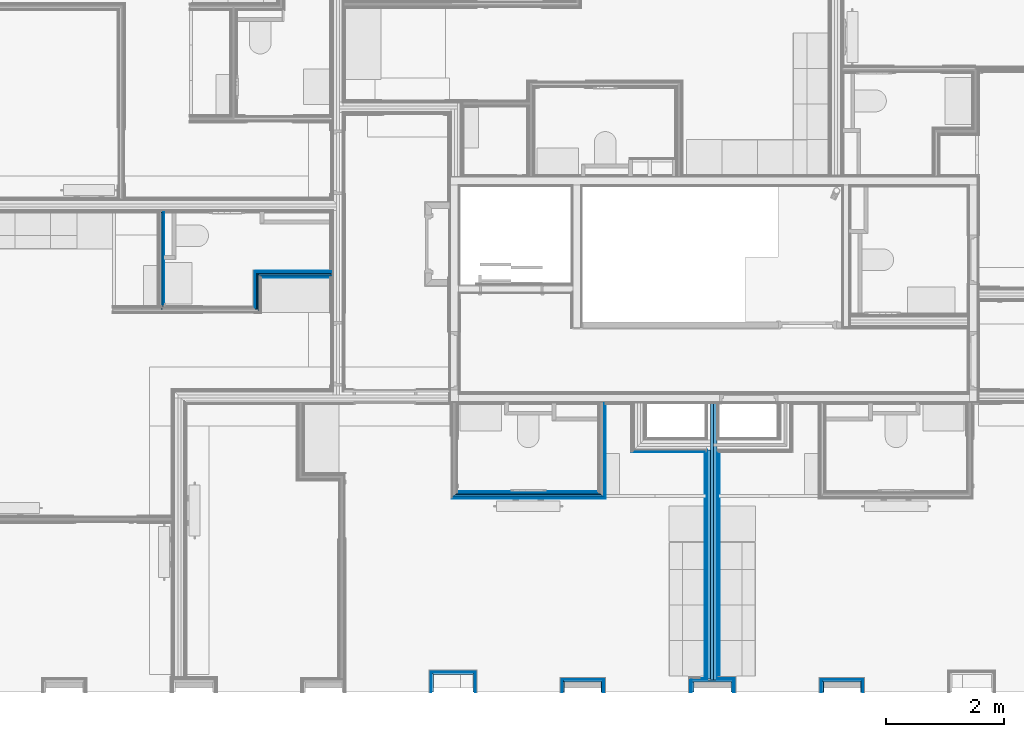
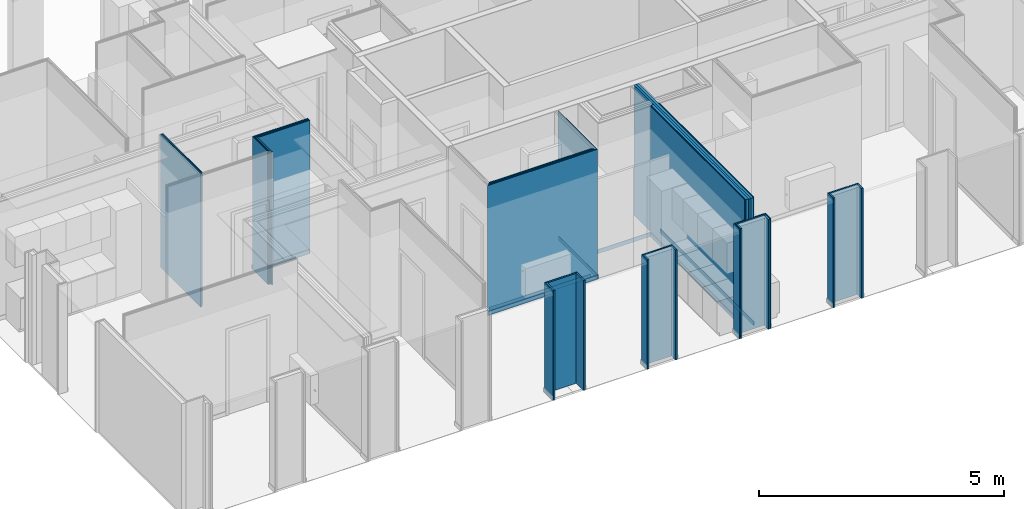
# One storey, part 11 of 64: 62 building element parts, 19 elements without a shape of their own.
"""IFC2X3 building model written with IfcOpenShell, lengths in metres."""

from ifc_helpers import new_model, entity, si_unit, converted_unit, derived_unit, money_unit, direction, frame, frame_2d, origin_with_axes, place, context, subcontext, project, spatial, polyline, rectangle, outline, extrude, material, type_object, element, aggregate, save


model = new_model("IFC2X3")

# Units and contexts
model_context = context("Model", 3, precision=1e-05, world=origin_with_axes(), true_north=direction((0.0, 1.0)))
body_context = subcontext(model_context, "Body", "Model", "MODEL_VIEW", scale=1.0)
ifc_project = project(units=[si_unit("LENGTHUNIT", "METRE"), si_unit("AREAUNIT", "SQUARE_METRE"), si_unit("VOLUMEUNIT", "CUBIC_METRE"), si_unit("ABSORBEDDOSEUNIT", "GRAY"), si_unit("AMOUNTOFSUBSTANCEUNIT", "MOLE"), si_unit("DOSEEQUIVALENTUNIT", "SIEVERT"), si_unit("ELECTRICCAPACITANCEUNIT", "FARAD"), si_unit("ELECTRICCHARGEUNIT", "COULOMB"), si_unit("ELECTRICCONDUCTANCEUNIT", "SIEMENS"), si_unit("ELECTRICCURRENTUNIT", "AMPERE"), si_unit("ELECTRICRESISTANCEUNIT", "OHM"), si_unit("ELECTRICVOLTAGEUNIT", "VOLT"), si_unit("ENERGYUNIT", "JOULE"), si_unit("FORCEUNIT", "NEWTON"), si_unit("FREQUENCYUNIT", "HERTZ"), si_unit("ILLUMINANCEUNIT", "LUX"), si_unit("INDUCTANCEUNIT", "HENRY"), si_unit("LUMINOUSFLUXUNIT", "LUMEN"), si_unit("LUMINOUSINTENSITYUNIT", "CANDELA"), si_unit("MAGNETICFLUXDENSITYUNIT", "TESLA"), si_unit("MAGNETICFLUXUNIT", "WEBER"), si_unit("MASSUNIT", "GRAM"), converted_unit("PLANEANGLEUNIT", "degree", entity("IfcReal", 0.0174532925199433), si_unit("PLANEANGLEUNIT", "RADIAN"), dimensions=[0, 0, 0, 0, 0, 0, 0]), si_unit("POWERUNIT", "WATT"), si_unit("PRESSUREUNIT", "PASCAL"), si_unit("RADIOACTIVITYUNIT", "BECQUEREL"), si_unit("SOLIDANGLEUNIT", "STERADIAN"), si_unit("THERMODYNAMICTEMPERATUREUNIT", "KELVIN"), si_unit("TIMEUNIT", "SECOND"), derived_unit("ACCELERATIONUNIT", [(si_unit("LENGTHUNIT", "METRE"), 1), (si_unit("TIMEUNIT", "SECOND"), -2)]), derived_unit("ANGULARVELOCITYUNIT", [(converted_unit("PLANEANGLEUNIT", "degree", entity("IfcReal", 0.0174532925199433), si_unit("PLANEANGLEUNIT", "RADIAN"), dimensions=[0, 0, 0, 0, 0, 0, 0]), 1), (si_unit("TIMEUNIT", "SECOND"), -1)]), derived_unit("CURVATUREUNIT", [(converted_unit("PLANEANGLEUNIT", "degree", entity("IfcReal", 0.0174532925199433), si_unit("PLANEANGLEUNIT", "RADIAN"), dimensions=[0, 0, 0, 0, 0, 0, 0]), 1), (si_unit("LENGTHUNIT", "METRE"), -1)]), derived_unit("DYNAMICVISCOSITYUNIT", [(si_unit("PRESSUREUNIT", "PASCAL"), 1), (si_unit("TIMEUNIT", "SECOND"), 1)]), derived_unit("HEATFLUXDENSITYUNIT", [(si_unit("POWERUNIT", "WATT"), 1), (si_unit("LENGTHUNIT", "METRE"), -2)]), derived_unit("HEATINGVALUEUNIT", [(si_unit("ENERGYUNIT", "JOULE"), 1), (si_unit("MASSUNIT", "GRAM"), -1)]), derived_unit("INTEGERCOUNTRATEUNIT", [(si_unit("TIMEUNIT", "SECOND"), -1)]), derived_unit("IONCONCENTRATIONUNIT", [(si_unit("MASSUNIT", "GRAM"), 1), (si_unit("VOLUMEUNIT", "CUBIC_METRE"), -1)]), derived_unit("ISOTHERMALMOISTURECAPACITYUNIT", [(si_unit("VOLUMEUNIT", "CUBIC_METRE"), 1), (si_unit("MASSUNIT", "GRAM"), -1)]), derived_unit("KINEMATICVISCOSITYUNIT", [(si_unit("AREAUNIT", "SQUARE_METRE"), 1), (si_unit("TIMEUNIT", "SECOND"), -1)]), derived_unit("LINEARFORCEUNIT", [(si_unit("FORCEUNIT", "NEWTON"), 1), (si_unit("LENGTHUNIT", "METRE"), -1)]), derived_unit("LINEARMOMENTUNIT", [(si_unit("FORCEUNIT", "NEWTON"), 1), (si_unit("LENGTHUNIT", "METRE"), -1)]), derived_unit("LINEARSTIFFNESSUNIT", [(si_unit("FORCEUNIT", "NEWTON"), 1), (si_unit("LENGTHUNIT", "METRE"), -1)]), derived_unit("LINEARVELOCITYUNIT", [(si_unit("LENGTHUNIT", "METRE"), 1), (si_unit("TIMEUNIT", "SECOND"), -1)]), derived_unit("LUMINOUSINTENSITYDISTRIBUTIONUNIT", [(si_unit("LUMINOUSINTENSITYUNIT", "CANDELA"), 1), (si_unit("LUMINOUSFLUXUNIT", "LUMEN"), -1)]), derived_unit("MASSDENSITYUNIT", [(si_unit("MASSUNIT", "GRAM"), 1), (si_unit("VOLUMEUNIT", "CUBIC_METRE"), -1)]), derived_unit("MASSFLOWRATEUNIT", [(si_unit("MASSUNIT", "GRAM"), 1), (si_unit("TIMEUNIT", "SECOND"), -1)]), derived_unit("MASSPERLENGTHUNIT", [(si_unit("MASSUNIT", "GRAM"), 1), (si_unit("LENGTHUNIT", "METRE"), -1)]), derived_unit("MODULUSOFELASTICITYUNIT", [(si_unit("FORCEUNIT", "NEWTON"), 1), (si_unit("AREAUNIT", "SQUARE_METRE"), -1)]), derived_unit("MODULUSOFLINEARSUBGRADEREACTIONUNIT", [(si_unit("FORCEUNIT", "NEWTON"), 1), (si_unit("LENGTHUNIT", "METRE"), -2)]), derived_unit("MODULUSOFROTATIONALSUBGRADEREACTIONUNIT", [(si_unit("FORCEUNIT", "NEWTON"), 1), (si_unit("LENGTHUNIT", "METRE"), 1)]), derived_unit("MODULUSOFSUBGRADEREACTIONUNIT", [(si_unit("FORCEUNIT", "NEWTON"), 1), (si_unit("VOLUMEUNIT", "CUBIC_METRE"), -1)]), derived_unit("MOISTUREDIFFUSIVITYUNIT", [(si_unit("VOLUMEUNIT", "CUBIC_METRE"), 1), (si_unit("TIMEUNIT", "SECOND"), -1)]), derived_unit("MOLECULARWEIGHTUNIT", [(si_unit("MASSUNIT", "GRAM"), 1), (si_unit("AMOUNTOFSUBSTANCEUNIT", "MOLE"), -1)]), derived_unit("PLANARFORCEUNIT", [(si_unit("FORCEUNIT", "NEWTON"), 1), (si_unit("LENGTHUNIT", "METRE"), -2)]), derived_unit("ROTATIONALFREQUENCYUNIT", [(si_unit("TIMEUNIT", "SECOND"), -1)]), derived_unit("ROTATIONALMASSUNIT", [(si_unit("MASSUNIT", "GRAM"), 1), (si_unit("LENGTHUNIT", "METRE"), 2)]), derived_unit("ROTATIONALSTIFFNESSUNIT", [(si_unit("FORCEUNIT", "NEWTON"), 1), (si_unit("LENGTHUNIT", "METRE"), 1), (converted_unit("PLANEANGLEUNIT", "degree", entity("IfcReal", 0.0174532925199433), si_unit("PLANEANGLEUNIT", "RADIAN"), dimensions=[0, 0, 0, 0, 0, 0, 0]), -1)]), derived_unit("SECTIONAREAINTEGRALUNIT", [(si_unit("LENGTHUNIT", "METRE"), 5)]), derived_unit("SECTIONMODULUSUNIT", [(si_unit("LENGTHUNIT", "METRE"), 3)]), derived_unit("SHEARMODULUSUNIT", [(si_unit("FORCEUNIT", "NEWTON"), 1), (si_unit("AREAUNIT", "SQUARE_METRE"), -1)]), derived_unit("SOUNDPOWERUNIT", [(si_unit("ENERGYUNIT", "JOULE"), 1), (si_unit("TIMEUNIT", "SECOND"), -1)]), derived_unit("SPECIFICHEATCAPACITYUNIT", [(si_unit("FORCEUNIT", "NEWTON"), 1), (si_unit("MASSUNIT", "GRAM"), -1), (si_unit("THERMODYNAMICTEMPERATUREUNIT", "KELVIN"), -1)]), derived_unit("TEMPERATUREGRADIENTUNIT", [(si_unit("THERMODYNAMICTEMPERATUREUNIT", "KELVIN"), 1), (si_unit("LENGTHUNIT", "METRE"), -1)]), derived_unit("THERMALADMITTANCEUNIT", [(si_unit("POWERUNIT", "WATT"), 1), (si_unit("AREAUNIT", "SQUARE_METRE"), -1), (si_unit("THERMODYNAMICTEMPERATUREUNIT", "KELVIN"), -1)]), derived_unit("THERMALCONDUCTANCEUNIT", [(si_unit("POWERUNIT", "WATT"), 1), (si_unit("LENGTHUNIT", "METRE"), -1), (si_unit("THERMODYNAMICTEMPERATUREUNIT", "KELVIN"), -1)]), derived_unit("THERMALEXPANSIONCOEFFICIENTUNIT", [(si_unit("THERMODYNAMICTEMPERATUREUNIT", "KELVIN"), -1)]), derived_unit("THERMALRESISTANCEUNIT", [(si_unit("AREAUNIT", "SQUARE_METRE"), 1), (si_unit("POWERUNIT", "WATT"), -1)]), derived_unit("THERMALTRANSMITTANCEUNIT", [(si_unit("POWERUNIT", "WATT"), 1), (si_unit("AREAUNIT", "SQUARE_METRE"), -1), (si_unit("THERMODYNAMICTEMPERATUREUNIT", "KELVIN"), -1)]), derived_unit("TORQUEUNIT", [(si_unit("FORCEUNIT", "NEWTON"), 1), (si_unit("LENGTHUNIT", "METRE"), 1)]), derived_unit("VAPORPERMEABILITYUNIT", [(si_unit("MASSUNIT", "GRAM"), 1), (si_unit("TIMEUNIT", "SECOND"), -1)]), derived_unit("VOLUMETRICFLOWRATEUNIT", [(si_unit("VOLUMEUNIT", "CUBIC_METRE"), 1), (si_unit("TIMEUNIT", "SECOND"), -1)]), derived_unit("WARPINGCONSTANTUNIT", [(si_unit("LENGTHUNIT", "METRE"), 6)]), derived_unit("WARPINGMOMENTUNIT", [(si_unit("FORCEUNIT", "NEWTON"), 1), (si_unit("LENGTHUNIT", "METRE"), 2)]), money_unit("GBP")], contexts=[model_context])

# Site, building, storey
site_placement = place(None, origin_with_axes())
site = spatial("IfcSite", under=ifc_project, at=site_placement, Name="Site", CompositionType="ELEMENT")
building_placement = place(site_placement, origin_with_axes())
building = spatial("IfcBuilding", under=site, at=building_placement, Name="Building01", CompositionType="ELEMENT")
storey_placement = place(building_placement, frame((0.0, 0.0, 8.64), z_axis=(0.0, 0.0, 1.0), x_axis=(1.0, 0.0, 0.0)))
storey = spatial("IfcBuildingStorey", under=building, at=storey_placement, Name="2F", CompositionType="ELEMENT", Elevation=8.64)

# Wall, building element parts
wall_type_1 = type_object("IfcWallType", Name="SHE_A-Walls_Type06d_ExternalWallInsulation_48mm", PredefinedType="NOTDEFINED")
wall_1_placement = place(storey_placement, frame((8.79, 0.1, 0.0), z_axis=(0.0, 0.0, 1.0), x_axis=(0.0, 1.0, 0.0)))
wall_1 = element("IfcWall", 1, at=wall_1_placement, inside=storey, type_object=wall_type_1, Name="6D", ObjectType="SHE_A-Walls_Type06d_ExternalWallInsulation_48mm")
ifc_material_1 = material(Name="A_BSUK_Insulation")
placement_1 = place(wall_1_placement, origin_with_axes())
building_element_part_1 = element("IfcBuildingElementPart", 2, at=placement_1, material=ifc_material_1, Name="1", context=body_context, shape_type="SweptSolid", body=[
    extrude(outline(polyline([(0.336, 0.036), (0.0, 0.036), (0.0, 0.0), (0.3, 0.0), (0.336, 0.036)])), origin_with_axes(), (0.0, 0.0, 1.0), 2.74),
])
ifc_material_2 = material(Name="A_BSUK_WallInternal_Finishes_Plasterboard")
building_element_part_2 = element("IfcBuildingElementPart", 3, at=placement_1, material=ifc_material_2, Name="2", context=body_context, shape_type="SweptSolid", body=[
    extrude(outline(polyline([(0.348, 0.048), (0.0, 0.048), (0.0, 0.035), (0.335, 0.035), (0.348, 0.048)])), origin_with_axes(), (0.0, 0.0, 1.0), 2.74),
])
aggregate(wall_1, [building_element_part_1, building_element_part_2])

wall_2_placement = place(storey_placement, frame((8.79, 0.4, 0.0), z_axis=(0.0, 0.0, 1.0), x_axis=(1.0, 0.0, 0.0)))
wall_2 = element("IfcWall", 4, at=wall_2_placement, inside=storey, type_object=wall_type_1, Name="6D", ObjectType="SHE_A-Walls_Type06d_ExternalWallInsulation_48mm")
placement_2 = place(wall_2_placement, origin_with_axes())
building_element_part_3 = element("IfcBuildingElementPart", 5, at=placement_2, material=ifc_material_1, Name="1", context=body_context, shape_type="SweptSolid", body=[
    extrude(outline(polyline([(0.706, 0.036), (-0.036, 0.036), (0.0, 0.0), (0.67, 0.0), (0.706, 0.036)])), origin_with_axes(), (0.0, 0.0, 1.0), 2.74),
])
building_element_part_4 = element("IfcBuildingElementPart", 6, at=placement_2, material=ifc_material_2, Name="2", context=body_context, shape_type="SweptSolid", body=[
    extrude(outline(polyline([(0.718, 0.048), (-0.048, 0.048), (-0.035, 0.035), (0.705, 0.035), (0.718, 0.048)])), origin_with_axes(), (0.0, 0.0, 1.0), 2.74),
])
aggregate(wall_2, [building_element_part_3, building_element_part_4])

wall_3_placement = place(storey_placement, frame((9.46, 0.4, 0.0), z_axis=(0.0, 0.0, 1.0), x_axis=(0.0, -1.0, 0.0)))
wall_3 = element("IfcWall", 7, at=wall_3_placement, inside=storey, type_object=wall_type_1, Name="6D", ObjectType="SHE_A-Walls_Type06d_ExternalWallInsulation_48mm")
placement_3 = place(wall_3_placement, origin_with_axes())
building_element_part_5 = element("IfcBuildingElementPart", 8, at=placement_3, material=ifc_material_1, Name="1", context=body_context, shape_type="SweptSolid", body=[
    extrude(outline(polyline([(-0.036, 0.036), (0.0, 0.0), (0.3, 0.0), (0.3, 0.036), (-0.036, 0.036)])), origin_with_axes(), (0.0, 0.0, 1.0), 2.74),
])
building_element_part_6 = element("IfcBuildingElementPart", 9, at=placement_3, material=ifc_material_2, Name="2", context=body_context, shape_type="SweptSolid", body=[
    extrude(outline(polyline([(-0.048, 0.048), (-0.035, 0.035), (0.3, 0.035), (0.3, 0.048), (-0.048, 0.048)])), origin_with_axes(), (0.0, 0.0, 1.0), 2.74),
])
aggregate(wall_3, [building_element_part_5, building_element_part_6])

wall_4_placement = place(storey_placement, frame((11.003, 0.1, 0.0), z_axis=(0.0, 0.0, 1.0), x_axis=(0.0, 1.0, 0.0)))
wall_4 = element("IfcWall", 10, at=wall_4_placement, inside=storey, type_object=wall_type_1, Name="6D", ObjectType="SHE_A-Walls_Type06d_ExternalWallInsulation_48mm")
placement_4 = place(wall_4_placement, origin_with_axes())
building_element_part_7 = element("IfcBuildingElementPart", 11, at=placement_4, material=ifc_material_1, Name="1", context=body_context, shape_type="SweptSolid", body=[
    extrude(outline(polyline([(0.206, 0.036), (0.0, 0.036), (0.0, 0.0), (0.17, 0.0), (0.206, 0.036)])), origin_with_axes(), (0.0, 0.0, 1.0), 2.74),
])
building_element_part_8 = element("IfcBuildingElementPart", 12, at=placement_4, material=ifc_material_2, Name="2", context=body_context, shape_type="SweptSolid", body=[
    extrude(outline(polyline([(0.218, 0.048), (0.0, 0.048), (0.0, 0.035), (0.205, 0.035), (0.218, 0.048)])), origin_with_axes(), (0.0, 0.0, 1.0), 2.74),
])
aggregate(wall_4, [building_element_part_7, building_element_part_8])

wall_5_placement = place(storey_placement, frame((11.003, 0.27, 0.0), z_axis=(0.0, 0.0, 1.0), x_axis=(1.0, 0.0, 0.0)))
wall_5 = element("IfcWall", 13, at=wall_5_placement, inside=storey, type_object=wall_type_1, Name="6D", ObjectType="SHE_A-Walls_Type06d_ExternalWallInsulation_48mm")
placement_5 = place(wall_5_placement, origin_with_axes())
building_element_part_9 = element("IfcBuildingElementPart", 14, at=placement_5, material=ifc_material_1, Name="1", context=body_context, shape_type="SweptSolid", body=[
    extrude(outline(polyline([(0.66, 0.036), (-0.036, 0.036), (0.0, 0.0), (0.624, 0.0), (0.66, 0.036)])), origin_with_axes(), (0.0, 0.0, 1.0), 2.74),
])
building_element_part_10 = element("IfcBuildingElementPart", 15, at=placement_5, material=ifc_material_2, Name="2", context=body_context, shape_type="SweptSolid", body=[
    extrude(outline(polyline([(0.672, 0.048), (-0.048, 0.048), (-0.035, 0.035), (0.659, 0.035), (0.672, 0.048)])), origin_with_axes(), (0.0, 0.0, 1.0), 2.74),
])
aggregate(wall_5, [building_element_part_9, building_element_part_10])

wall_6_placement = place(storey_placement, frame((11.627, 0.27, 0.0), z_axis=(0.0, 0.0, 1.0), x_axis=(0.0, -1.0, 0.0)))
wall_6 = element("IfcWall", 16, at=wall_6_placement, inside=storey, type_object=wall_type_1, Name="6D", ObjectType="SHE_A-Walls_Type06d_ExternalWallInsulation_48mm")
placement_6 = place(wall_6_placement, origin_with_axes())
building_element_part_11 = element("IfcBuildingElementPart", 17, at=placement_6, material=ifc_material_1, Name="1", context=body_context, shape_type="SweptSolid", body=[
    extrude(outline(polyline([(-0.036, 0.036), (0.0, 0.0), (0.17, 0.0), (0.17, 0.036), (-0.036, 0.036)])), origin_with_axes(), (0.0, 0.0, 1.0), 2.74),
])
building_element_part_12 = element("IfcBuildingElementPart", 18, at=placement_6, material=ifc_material_2, Name="2", context=body_context, shape_type="SweptSolid", body=[
    extrude(outline(polyline([(-0.048, 0.048), (-0.035, 0.035), (0.17, 0.035), (0.17, 0.048), (-0.048, 0.048)])), origin_with_axes(), (0.0, 0.0, 1.0), 2.74),
])
aggregate(wall_6, [building_element_part_11, building_element_part_12])

wall_7_placement = place(storey_placement, frame((15.383, 0.1, 0.0), z_axis=(0.0, 0.0, 1.0), x_axis=(0.0, 1.0, 0.0)))
wall_7 = element("IfcWall", 19, at=wall_7_placement, inside=storey, type_object=wall_type_1, Name="6D", ObjectType="SHE_A-Walls_Type06d_ExternalWallInsulation_48mm")
placement_7 = place(wall_7_placement, origin_with_axes())
building_element_part_13 = element("IfcBuildingElementPart", 20, at=placement_7, material=ifc_material_1, Name="1", context=body_context, shape_type="SweptSolid", body=[
    extrude(outline(polyline([(0.206, 0.036), (0.0, 0.036), (0.0, 0.0), (0.17, 0.0), (0.206, 0.036)])), origin_with_axes(), (0.0, 0.0, 1.0), 2.74),
])
building_element_part_14 = element("IfcBuildingElementPart", 21, at=placement_7, material=ifc_material_2, Name="2", context=body_context, shape_type="SweptSolid", body=[
    extrude(outline(polyline([(0.218, 0.048), (0.0, 0.048), (0.0, 0.035), (0.205, 0.035), (0.218, 0.048)])), origin_with_axes(), (0.0, 0.0, 1.0), 2.74),
])
aggregate(wall_7, [building_element_part_13, building_element_part_14])

wall_8_placement = place(storey_placement, frame((15.383, 0.27, 0.0), z_axis=(0.0, 0.0, 1.0), x_axis=(1.0, 0.0, 0.0)))
wall_8 = element("IfcWall", 22, at=wall_8_placement, inside=storey, type_object=wall_type_1, Name="6D", ObjectType="SHE_A-Walls_Type06d_ExternalWallInsulation_48mm")
placement_8 = place(wall_8_placement, origin_with_axes())
building_element_part_15 = element("IfcBuildingElementPart", 23, at=placement_8, material=ifc_material_1, Name="1", context=body_context, shape_type="SweptSolid", body=[
    extrude(outline(polyline([(0.66, 0.036), (-0.036, 0.036), (0.0, 0.0), (0.624, 0.0), (0.66, 0.036)])), origin_with_axes(), (0.0, 0.0, 1.0), 2.74),
])
building_element_part_16 = element("IfcBuildingElementPart", 24, at=placement_8, material=ifc_material_2, Name="2", context=body_context, shape_type="SweptSolid", body=[
    extrude(outline(polyline([(0.672, 0.048), (-0.048, 0.048), (-0.035, 0.035), (0.659, 0.035), (0.672, 0.048)])), origin_with_axes(), (0.0, 0.0, 1.0), 2.74),
])
aggregate(wall_8, [building_element_part_15, building_element_part_16])

wall_9_placement = place(storey_placement, frame((16.007, 0.27, 0.0), z_axis=(0.0, 0.0, 1.0), x_axis=(0.0, -1.0, 0.0)))
wall_9 = element("IfcWall", 25, at=wall_9_placement, inside=storey, type_object=wall_type_1, Name="6D", ObjectType="SHE_A-Walls_Type06d_ExternalWallInsulation_48mm")
placement_9 = place(wall_9_placement, origin_with_axes())
building_element_part_17 = element("IfcBuildingElementPart", 26, at=placement_9, material=ifc_material_1, Name="1", context=body_context, shape_type="SweptSolid", body=[
    extrude(outline(polyline([(-0.036, 0.036), (0.0, 0.0), (0.17, 0.0), (0.17, 0.036), (-0.036, 0.036)])), origin_with_axes(), (0.0, 0.0, 1.0), 2.74),
])
building_element_part_18 = element("IfcBuildingElementPart", 27, at=placement_9, material=ifc_material_2, Name="2", context=body_context, shape_type="SweptSolid", body=[
    extrude(outline(polyline([(-0.048, 0.048), (-0.035, 0.035), (0.17, 0.035), (0.17, 0.048), (-0.048, 0.048)])), origin_with_axes(), (0.0, 0.0, 1.0), 2.74),
])
aggregate(wall_9, [building_element_part_17, building_element_part_18])

# Wall, building element part
wall_type_2 = type_object("IfcWallType", Name="SHE_A-Walls_Type01c_Partywall_225mm_twin_tall", PredefinedType="NOTDEFINED")
wall_10_placement = place(storey_placement, frame((12.288, 4.302428, 0.0), z_axis=(0.0, 0.0, 1.0), x_axis=(1.0, 0.0, 0.0)))
wall_10 = element("IfcWall", 28, at=wall_10_placement, inside=storey, type_object=wall_type_2, Name="1C", ObjectType="SHE_A-Walls_Type01c_Partywall_225mm_twin_tall")
ifc_material_3 = material(Name="A_BSUK_Walls_Timber")
building_element_part_19_placement = place(wall_10_placement, origin_with_axes())
building_element_part_19 = element("IfcBuildingElementPart", 29, at=building_element_part_19_placement, material=ifc_material_3, Name="1", context=body_context, shape_type="SweptSolid", body=[
    extrude(rectangle(XDim=1.2375, YDim=0.015, at=frame_2d((0.46575, -0.1455), x_axis=(-1.0, 0.0))), frame((0.0, 0.0, 0.015), z_axis=(0.0, 0.0, 1.0), x_axis=(1.0, 0.0, 0.0)), (0.0, 0.0, 1.0), 0.1),
])
aggregate(wall_10, [building_element_part_19])

# Wall, building element parts
wall_11_placement = place(storey_placement, frame((13.5005, 4.995, 0.0), z_axis=(0.0, 0.0, 1.0), x_axis=(0.0, -1.0, 0.0)))
wall_11 = element("IfcWall", 30, at=wall_11_placement, inside=storey, type_object=wall_type_2, Name="1C", ObjectType="SHE_A-Walls_Type01c_Partywall_225mm_twin_tall")
placement_10 = place(wall_11_placement, origin_with_axes())
building_element_part_20 = element("IfcBuildingElementPart", 31, at=placement_10, material=ifc_material_3, Name="1", context=body_context, shape_type="SweptSolid", body=[
    extrude(rectangle(XDim=3.831428, YDim=0.015, at=frame_2d((2.746286, -0.1205), x_axis=(-1.0, 0.0))), frame((0.0, 0.0, 0.015), z_axis=(0.0, 0.0, 1.0), x_axis=(1.0, 0.0, 0.0)), (0.0, 0.0, 1.0), 0.1),
])
building_element_part_21 = element("IfcBuildingElementPart", 32, at=placement_10, material=ifc_material_2, Name="3", context=body_context, shape_type="SweptSolid", body=[
    extrude(rectangle(XDim=3.846428, YDim=0.015, at=frame_2d((2.738786, -0.1055), x_axis=(-1.0, 0.0))), origin_with_axes(), (0.0, 0.0, 1.0), 3.24),
])
building_element_part_22 = element("IfcBuildingElementPart", 33, at=placement_10, material=ifc_material_2, Name="5", context=body_context, shape_type="SweptSolid", body=[
    extrude(rectangle(XDim=3.876428, YDim=0.015, at=frame_2d((2.738786, -0.0905), x_axis=(-1.0, 0.0))), origin_with_axes(), (0.0, 0.0, 1.0), 3.24),
])
ifc_material_4 = material(Name="Air Cavity")
building_element_part_23 = element("IfcBuildingElementPart", 34, at=placement_10, material=ifc_material_4, Name="6", context=body_context, shape_type="SweptSolid", body=[
    extrude(rectangle(XDim=3.876428, YDim=0.058, at=frame_2d((2.738786, -0.054), x_axis=(-1.0, 0.0))), origin_with_axes(), (0.0, 0.0, 1.0), 3.24),
])
building_element_part_24 = element("IfcBuildingElementPart", 35, at=placement_10, material=ifc_material_1, Name="7", context=body_context, shape_type="SweptSolid", body=[
    extrude(rectangle(XDim=4.689, YDim=0.05, at=frame_2d((2.3445, 0.0), x_axis=(-1.0, 0.0))), origin_with_axes(), (0.0, 0.0, 1.0), 3.24),
])
building_element_part_25 = element("IfcBuildingElementPart", 36, at=placement_10, material=ifc_material_4, Name="8", context=body_context, shape_type="SweptSolid", body=[
    extrude(rectangle(XDim=4.689, YDim=0.057, at=frame_2d((2.3445, 0.0535), x_axis=(-1.0, 0.0))), origin_with_axes(), (0.0, 0.0, 1.0), 3.24),
])
building_element_part_26 = element("IfcBuildingElementPart", 37, at=placement_10, material=ifc_material_2, Name="10", context=body_context, shape_type="SweptSolid", body=[
    extrude(rectangle(XDim=3.876428, YDim=0.015, at=frame_2d((2.738786, 0.0895), x_axis=(-1.0, 0.0))), origin_with_axes(), (0.0, 0.0, 1.0), 3.24),
])
building_element_part_27 = element("IfcBuildingElementPart", 38, at=placement_10, material=ifc_material_2, Name="12", context=body_context, shape_type="SweptSolid", body=[
    extrude(rectangle(XDim=3.846428, YDim=0.015, at=frame_2d((2.738786, 0.1045), x_axis=(-1.0, 0.0))), origin_with_axes(), (0.0, 0.0, 1.0), 3.24),
])
building_element_part_28 = element("IfcBuildingElementPart", 39, at=placement_10, material=ifc_material_3, Name="13", context=body_context, shape_type="SweptSolid", body=[
    extrude(rectangle(XDim=3.816428, YDim=0.015, at=frame_2d((2.738786, 0.1195), x_axis=(-1.0, 0.0))), frame((0.0, 0.0, 0.015), z_axis=(0.0, 0.0, 1.0), x_axis=(1.0, 0.0, 0.0)), (0.0, 0.0, 1.0), 0.1),
])
aggregate(wall_11, [building_element_part_20, building_element_part_21, building_element_part_22, building_element_part_23, building_element_part_24, building_element_part_25, building_element_part_26, building_element_part_27, building_element_part_28])

wall_type_3 = type_object("IfcWallType", Name="SHE_A-Walls_Type05a_Partition_95mm_tall", PredefinedType="NOTDEFINED")
wall_12_placement = place(storey_placement, frame((4.20573, 6.571475, 0.0), z_axis=(0.0, 0.0, 1.0), x_axis=(0.0, 1.0, 0.0)))
wall_12 = element("IfcWall", 40, at=wall_12_placement, inside=storey, type_object=wall_type_3, Name="5A", ObjectType="SHE_A-Walls_Type05a_Partition_95mm_tall")
placement_11 = place(wall_12_placement, origin_with_axes())
building_element_part_29 = element("IfcBuildingElementPart", 41, at=placement_11, material=ifc_material_2, Name="2", context=body_context, shape_type="SweptSolid", body=[
    extrude(rectangle(XDim=1.604195, YDim=0.012, at=frame_2d((0.837097, -0.029), x_axis=(-1.0, 0.0))), origin_with_axes(), (0.0, 0.0, 1.0), 3.32),
])
building_element_part_30 = element("IfcBuildingElementPart", 42, at=placement_11, material=ifc_material_4, Name="3", context=body_context, shape_type="SweptSolid", body=[
    extrude(rectangle(XDim=1.604195, YDim=0.023, at=frame_2d((0.837097, -0.0115), x_axis=(-1.0, 0.0))), origin_with_axes(), (0.0, 0.0, 1.0), 3.32),
])
building_element_part_31 = element("IfcBuildingElementPart", 43, at=placement_11, material=ifc_material_1, Name="4", context=body_context, shape_type="SweptSolid", body=[
    extrude(rectangle(XDim=1.639195, YDim=0.025, at=frame_2d((0.819597, 0.0125), x_axis=(-1.0, 0.0))), origin_with_axes(), (0.0, 0.0, 1.0), 3.32),
])
aggregate(wall_12, [building_element_part_29, building_element_part_30, building_element_part_31])

wall_13_placement = place(storey_placement, frame((5.804669, 6.571475, 0.0), z_axis=(0.0, 0.0, 1.0), x_axis=(0.0, 1.0, 0.0)))
wall_13 = element("IfcWall", 44, at=wall_13_placement, inside=storey, type_object=wall_type_3, Name="5A", ObjectType="SHE_A-Walls_Type05a_Partition_95mm_tall")
placement_12 = place(wall_13_placement, origin_with_axes())
building_element_part_32 = element("IfcBuildingElementPart", 45, at=placement_12, material=ifc_material_4, Name="3", context=body_context, shape_type="SweptSolid", body=[
    extrude(outline(polyline([(0.575, -0.025), (-0.025, -0.025), (-0.048, -0.048), (0.552, -0.048), (0.575, -0.025)])), origin_with_axes(), (0.0, 0.0, 1.0), 3.32),
])
building_element_part_33 = element("IfcBuildingElementPart", 46, at=placement_12, material=ifc_material_1, Name="4", context=body_context, shape_type="SweptSolid", body=[
    extrude(outline(polyline([(0.6, 0.0), (0.0, 0.0), (0.0, -0.025), (0.575, -0.025), (0.6, 0.0)])), origin_with_axes(), (0.0, 0.0, 1.0), 3.32),
])
building_element_part_34 = element("IfcBuildingElementPart", 47, at=placement_12, material=ifc_material_4, Name="5", context=body_context, shape_type="SweptSolid", body=[
    extrude(outline(polyline([(0.623, 0.023), (0.0, 0.023), (0.0, 0.0), (0.6, 0.0), (0.623, 0.023)])), origin_with_axes(), (0.0, 0.0, 1.0), 3.32),
])
building_element_part_35 = element("IfcBuildingElementPart", 48, at=placement_12, material=ifc_material_2, Name="6", context=body_context, shape_type="SweptSolid", body=[
    extrude(outline(polyline([(0.635, 0.035), (0.035, 0.035), (0.023, 0.023), (0.623, 0.023), (0.635, 0.035)])), origin_with_axes(), (0.0, 0.0, 1.0), 3.32),
])
aggregate(wall_13, [building_element_part_32, building_element_part_33, building_element_part_34, building_element_part_35])

wall_14_placement = place(storey_placement, frame((5.804669, 7.171475, 0.0), z_axis=(0.0, 0.0, 1.0), x_axis=(1.0, 0.0, 0.0)))
wall_14 = element("IfcWall", 49, at=wall_14_placement, inside=storey, type_object=wall_type_3, Name="5A", ObjectType="SHE_A-Walls_Type05a_Partition_95mm_tall")
placement_13 = place(wall_14_placement, origin_with_axes())
building_element_part_36 = element("IfcBuildingElementPart", 50, at=placement_13, material=ifc_material_3, Name="1", context=body_context, shape_type="SweptSolid", body=[
    extrude(outline(polyline([(1.245, -0.06), (0.06, -0.06), (0.075, -0.075), (1.245, -0.075), (1.245, -0.06)])), frame((0.0, 0.0, 0.015), z_axis=(0.0, 0.0, 1.0), x_axis=(1.0, 0.0, 0.0)), (0.0, 0.0, 1.0), 0.1),
])
building_element_part_37 = element("IfcBuildingElementPart", 51, at=placement_13, material=ifc_material_2, Name="2", context=body_context, shape_type="SweptSolid", body=[
    extrude(outline(polyline([(1.26, -0.048), (0.048, -0.048), (0.06, -0.06), (1.26, -0.06), (1.26, -0.048)])), origin_with_axes(), (0.0, 0.0, 1.0), 3.32),
])
building_element_part_38 = element("IfcBuildingElementPart", 52, at=placement_13, material=ifc_material_4, Name="3", context=body_context, shape_type="SweptSolid", body=[
    extrude(outline(polyline([(1.26, -0.025), (0.025, -0.025), (0.048, -0.048), (1.26, -0.048), (1.26, -0.025)])), origin_with_axes(), (0.0, 0.0, 1.0), 3.32),
])
building_element_part_39 = element("IfcBuildingElementPart", 53, at=placement_13, material=ifc_material_1, Name="4", context=body_context, shape_type="SweptSolid", body=[
    extrude(outline(polyline([(1.26, 0.0), (0.0, 0.0), (0.025, -0.025), (1.26, -0.025), (1.26, 0.0)])), origin_with_axes(), (0.0, 0.0, 1.0), 3.32),
])
building_element_part_40 = element("IfcBuildingElementPart", 54, at=placement_13, material=ifc_material_4, Name="5", context=body_context, shape_type="SweptSolid", body=[
    extrude(outline(polyline([(1.26, 0.023), (-0.023, 0.023), (0.0, 0.0), (1.26, 0.0), (1.26, 0.023)])), origin_with_axes(), (0.0, 0.0, 1.0), 3.32),
])
building_element_part_41 = element("IfcBuildingElementPart", 55, at=placement_13, material=ifc_material_2, Name="6", context=body_context, shape_type="SweptSolid", body=[
    extrude(outline(polyline([(1.26, 0.035), (-0.035, 0.035), (-0.023, 0.023), (1.26, 0.023), (1.26, 0.035)])), origin_with_axes(), (0.0, 0.0, 1.0), 3.32),
])
building_element_part_42 = element("IfcBuildingElementPart", 56, at=placement_13, material=ifc_material_3, Name="7", context=body_context, shape_type="SweptSolid", body=[
    extrude(outline(polyline([(1.245, 0.05), (-0.05, 0.05), (-0.035, 0.035), (1.245, 0.035), (1.245, 0.05)])), frame((0.0, 0.0, 0.015), z_axis=(0.0, 0.0, 1.0), x_axis=(1.0, 0.0, 0.0)), (0.0, 0.0, 1.0), 0.1),
])
aggregate(wall_14, [building_element_part_36, building_element_part_37, building_element_part_38, building_element_part_39, building_element_part_40, building_element_part_41, building_element_part_42])

wall_15_placement = place(storey_placement, frame((9.132536, 3.42, 0.0), z_axis=(0.0, 0.0, 1.0), x_axis=(-1.0, 0.0, 0.0)))
wall_15 = element("IfcWall", 57, at=wall_15_placement, inside=storey, type_object=wall_type_3, Name="5A", ObjectType="SHE_A-Walls_Type05a_Partition_95mm_tall")
placement_14 = place(wall_15_placement, origin_with_axes())
building_element_part_43 = element("IfcBuildingElementPart", 58, at=placement_14, material=ifc_material_3, Name="1", context=body_context, shape_type="SweptSolid", body=[
    extrude(outline(polyline([(-2.445, -0.075), (-0.06, -0.075), (-0.06, -0.06), (-2.46, -0.06), (-2.445, -0.075)])), frame((0.0, 0.0, 0.015), z_axis=(0.0, 0.0, 1.0), x_axis=(1.0, 0.0, 0.0)), (0.0, 0.0, 1.0), 0.1),
])
building_element_part_44 = element("IfcBuildingElementPart", 59, at=placement_14, material=ifc_material_2, Name="2", context=body_context, shape_type="SweptSolid", body=[
    extrude(outline(polyline([(-2.46, -0.06), (-0.06, -0.06), (-0.048, -0.048), (-2.472, -0.048), (-2.46, -0.06)])), origin_with_axes(), (0.0, 0.0, 1.0), 3.24),
])
building_element_part_45 = element("IfcBuildingElementPart", 60, at=placement_14, material=ifc_material_4, Name="3", context=body_context, shape_type="SweptSolid", body=[
    extrude(outline(polyline([(-2.472, -0.048), (-0.048, -0.048), (-0.025, -0.025), (-2.495, -0.025), (-2.472, -0.048)])), origin_with_axes(), (0.0, 0.0, 1.0), 3.24),
])
building_element_part_46 = element("IfcBuildingElementPart", 61, at=placement_14, material=ifc_material_1, Name="4", context=body_context, shape_type="SweptSolid", body=[
    extrude(outline(polyline([(-2.495, -0.025), (-0.025, -0.025), (0.0, 0.0), (-2.52, 0.0), (-2.495, -0.025)])), origin_with_axes(), (0.0, 0.0, 1.0), 3.24),
])
building_element_part_47 = element("IfcBuildingElementPart", 62, at=placement_14, material=ifc_material_4, Name="5", context=body_context, shape_type="SweptSolid", body=[
    extrude(outline(polyline([(-2.52, 0.0), (0.0, 0.0), (0.023, 0.023), (-2.543, 0.023), (-2.52, 0.0)])), origin_with_axes(), (0.0, 0.0, 1.0), 3.24),
])
building_element_part_48 = element("IfcBuildingElementPart", 63, at=placement_14, material=ifc_material_2, Name="6", context=body_context, shape_type="SweptSolid", body=[
    extrude(outline(polyline([(-2.543, 0.023), (0.023, 0.023), (0.035, 0.035), (-2.555, 0.035), (-2.543, 0.023)])), origin_with_axes(), (0.0, 0.0, 1.0), 3.24),
])
building_element_part_49 = element("IfcBuildingElementPart", 64, at=placement_14, material=ifc_material_3, Name="7", context=body_context, shape_type="SweptSolid", body=[
    extrude(outline(polyline([(-2.555, 0.035), (0.035, 0.035), (0.035, 0.05), (-2.57, 0.05), (-2.555, 0.035)])), frame((0.0, 0.0, 0.015), z_axis=(0.0, 0.0, 1.0), x_axis=(1.0, 0.0, 0.0)), (0.0, 0.0, 1.0), 0.1),
])
aggregate(wall_15, [building_element_part_43, building_element_part_44, building_element_part_45, building_element_part_46, building_element_part_47, building_element_part_48, building_element_part_49])

wall_16_placement = place(storey_placement, frame((11.652536, 3.42, 0.0), z_axis=(0.0, 0.0, 1.0), x_axis=(0.0, -1.0, 0.0)))
wall_16 = element("IfcWall", 65, at=wall_16_placement, inside=storey, type_object=wall_type_3, Name="5A", ObjectType="SHE_A-Walls_Type05a_Partition_95mm_tall")
placement_15 = place(wall_16_placement, origin_with_axes())
building_element_part_50 = element("IfcBuildingElementPart", 66, at=placement_15, material=ifc_material_2, Name="6", context=body_context, shape_type="SweptSolid", body=[
    extrude(outline(polyline([(-1.56, 0.023), (0.023, 0.023), (0.035, 0.035), (-1.56, 0.035), (-1.56, 0.023)])), origin_with_axes(), (0.0, 0.0, 1.0), 3.24),
])
building_element_part_51 = element("IfcBuildingElementPart", 67, at=placement_15, material=ifc_material_3, Name="7", context=body_context, shape_type="SweptSolid", body=[
    extrude(outline(polyline([(-1.56, 0.035), (0.035, 0.035), (0.05, 0.05), (-1.56, 0.05), (-1.56, 0.035)])), frame((0.0, 0.0, 0.015), z_axis=(0.0, 0.0, 1.0), x_axis=(1.0, 0.0, 0.0)), (0.0, 0.0, 1.0), 0.1),
])
aggregate(wall_16, [building_element_part_50, building_element_part_51])

wall_type_4 = type_object("IfcWallType", Name="SHE_A-Walls_Type06f_ExternalWallInsulation_48+15mm", PredefinedType="NOTDEFINED")
wall_17_placement = place(storey_placement, frame((13.193, 0.27, 0.0), z_axis=(0.0, 0.0, 1.0), x_axis=(0.0, 1.0, 0.0)))
wall_17 = element("IfcWall", 68, at=wall_17_placement, inside=storey, type_object=wall_type_4, Name="6F", ObjectType="SHE_A-Walls_Type06f_ExternalWallInsulation_48+15mm")
placement_16 = place(wall_17_placement, origin_with_axes())
building_element_part_52 = element("IfcBuildingElementPart", 69, at=placement_16, material=ifc_material_1, Name="1", context=body_context, shape_type="SweptSolid", body=[
    extrude(rectangle(XDim=0.17, YDim=0.036, at=frame_2d((-0.085, 0.018), x_axis=(1.0, 0.0))), origin_with_axes(), (0.0, 0.0, 1.0), 2.74),
])
building_element_part_53 = element("IfcBuildingElementPart", 70, at=placement_16, material=ifc_material_2, Name="2", context=body_context, shape_type="SweptSolid", body=[
    extrude(rectangle(XDim=0.206, YDim=0.012, at=frame_2d((-0.067, 0.042), x_axis=(1.0, 0.0))), origin_with_axes(), (0.0, 0.0, 1.0), 2.74),
])
building_element_part_54 = element("IfcBuildingElementPart", 71, at=placement_16, material=ifc_material_2, Name="3", context=body_context, shape_type="SweptSolid", body=[
    extrude(outline(polyline([(-0.17, 0.048), (0.048, 0.048), (0.063, 0.063), (-0.17, 0.063), (-0.17, 0.048)])), origin_with_axes(), (0.0, 0.0, 1.0), 2.74),
])
aggregate(wall_17, [building_element_part_52, building_element_part_53, building_element_part_54])

wall_18_placement = place(storey_placement, frame((13.853124, 0.27, 0.0), z_axis=(0.0, 0.0, 1.0), x_axis=(1.0, 0.0, 0.0)))
wall_18 = element("IfcWall", 72, at=wall_18_placement, inside=storey, type_object=wall_type_4, Name="6F", ObjectType="SHE_A-Walls_Type06f_ExternalWallInsulation_48+15mm")
placement_17 = place(wall_18_placement, origin_with_axes())
building_element_part_55 = element("IfcBuildingElementPart", 73, at=placement_17, material=ifc_material_1, Name="1", context=body_context, shape_type="SweptSolid", body=[
    extrude(rectangle(XDim=0.696124, YDim=0.036, at=frame_2d((-0.348062, 0.018), x_axis=(1.0, 0.0))), origin_with_axes(), (0.0, 0.0, 1.0), 2.74),
])
building_element_part_56 = element("IfcBuildingElementPart", 74, at=placement_17, material=ifc_material_2, Name="2", context=body_context, shape_type="SweptSolid", body=[
    extrude(rectangle(XDim=0.2725, YDim=0.012, at=frame_2d((-0.571874, 0.042), x_axis=(1.0, 0.0))), origin_with_axes(), (0.0, 0.0, 1.0), 2.74),
])
building_element_part_57 = element("IfcBuildingElementPart", 75, at=placement_17, material=ifc_material_2, Name="3", context=body_context, shape_type="SweptSolid", body=[
    extrude(rectangle(XDim=0.270624, YDim=0.012, at=frame_2d((-0.135312, 0.042), x_axis=(1.0, 0.0))), origin_with_axes(), (0.0, 0.0, 1.0), 2.74),
])
building_element_part_58 = element("IfcBuildingElementPart", 76, at=placement_17, material=ifc_material_2, Name="4", context=body_context, shape_type="SweptSolid", body=[
    extrude(outline(polyline([(-0.255624, 0.048), (0.012, 0.048), (0.027, 0.063), (-0.255624, 0.063), (-0.255624, 0.048)])), origin_with_axes(), (0.0, 0.0, 1.0), 2.74),
])
building_element_part_59 = element("IfcBuildingElementPart", 77, at=placement_17, material=ifc_material_2, Name="5", context=body_context, shape_type="SweptSolid", body=[
    extrude(outline(polyline([(-0.708124, 0.048), (-0.450624, 0.048), (-0.450624, 0.063), (-0.723124, 0.063), (-0.708124, 0.048)])), origin_with_axes(), (0.0, 0.0, 1.0), 2.74),
])
aggregate(wall_18, [building_element_part_55, building_element_part_56, building_element_part_57, building_element_part_58, building_element_part_59])

wall_19_placement = place(storey_placement, frame((13.817124, 0.27, 0.0), z_axis=(0.0, 0.0, 1.0), x_axis=(0.0, 1.0, 0.0)))
wall_19 = element("IfcWall", 78, at=wall_19_placement, inside=storey, type_object=wall_type_4, Name="6F", ObjectType="SHE_A-Walls_Type06f_ExternalWallInsulation_48+15mm")
placement_18 = place(wall_19_placement, origin_with_axes())
building_element_part_60 = element("IfcBuildingElementPart", 79, at=placement_18, material=ifc_material_2, Name="2", context=body_context, shape_type="SweptSolid", body=[
    extrude(outline(polyline([(-0.17, -0.063), (0.063, -0.063), (0.048, -0.048), (-0.17, -0.048), (-0.17, -0.063)])), origin_with_axes(), (0.0, 0.0, 1.0), 2.74),
])
building_element_part_61 = element("IfcBuildingElementPart", 80, at=placement_18, material=ifc_material_2, Name="3", context=body_context, shape_type="SweptSolid", body=[
    extrude(rectangle(XDim=0.218, YDim=0.012, at=frame_2d((-0.061, -0.042), x_axis=(1.0, 0.0))), origin_with_axes(), (0.0, 0.0, 1.0), 2.74),
])
building_element_part_62 = element("IfcBuildingElementPart", 81, at=placement_18, material=ifc_material_1, Name="4", context=body_context, shape_type="SweptSolid", body=[
    extrude(rectangle(XDim=0.17, YDim=0.036, at=frame_2d((-0.085, -0.018), x_axis=(1.0, 0.0))), origin_with_axes(), (0.0, 0.0, 1.0), 2.74),
])
aggregate(wall_19, [building_element_part_60, building_element_part_61, building_element_part_62])

save(model, "model.ifc")
